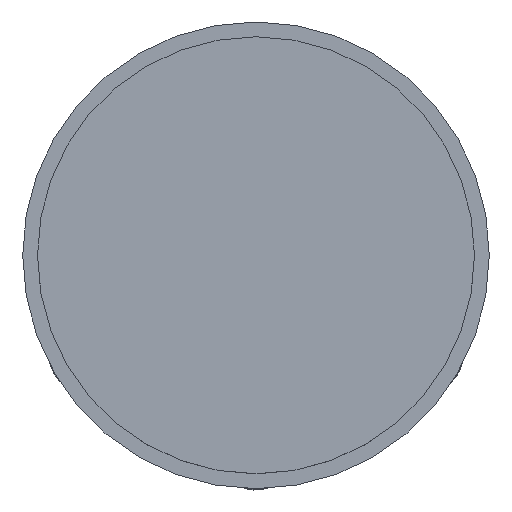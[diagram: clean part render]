
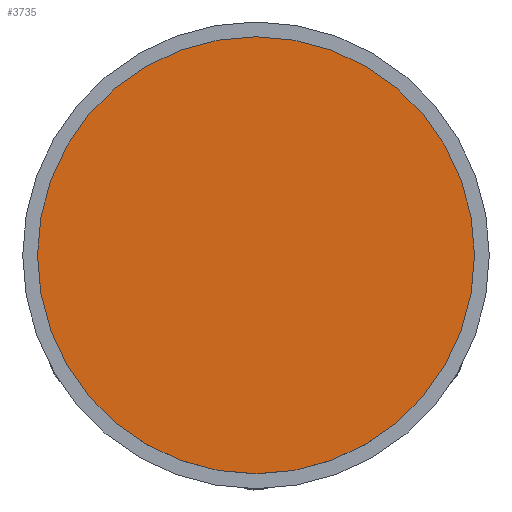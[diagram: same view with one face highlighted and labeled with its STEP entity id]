
A CAD part, top view. The second image highlights one B-rep face of the part: STEP entity #3735.
In plain terms, the highlighted planar face has unit normal (0, 0, 1).
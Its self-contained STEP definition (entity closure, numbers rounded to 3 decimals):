
#235=PLANE('',#4062);
#337=FACE_OUTER_BOUND('',#642,.T.);
#642=EDGE_LOOP('',(#2571));
#1345=CIRCLE('',#4060,295.);
#1707=VERTEX_POINT('',#6180);
#2030=EDGE_CURVE('',#1707,#1707,#1345,.T.);
#2571=ORIENTED_EDGE('',*,*,#2030,.T.);
#3735=ADVANCED_FACE('',(#337),#235,.T.);
#4060=AXIS2_PLACEMENT_3D('',#6181,#4717,#4718);
#4062=AXIS2_PLACEMENT_3D('',#6185,#4722,#4723);
#4717=DIRECTION('center_axis',(0.,0.,1.));
#4718=DIRECTION('ref_axis',(1.,0.,0.));
#4722=DIRECTION('center_axis',(0.,0.,1.));
#4723=DIRECTION('ref_axis',(1.,0.,0.));
#6180=CARTESIAN_POINT('',(-295.,0.,1851.05));
#6181=CARTESIAN_POINT('Origin',(0.,0.,
1851.05));
#6185=CARTESIAN_POINT('Origin',(0.,0.,
1851.05));
